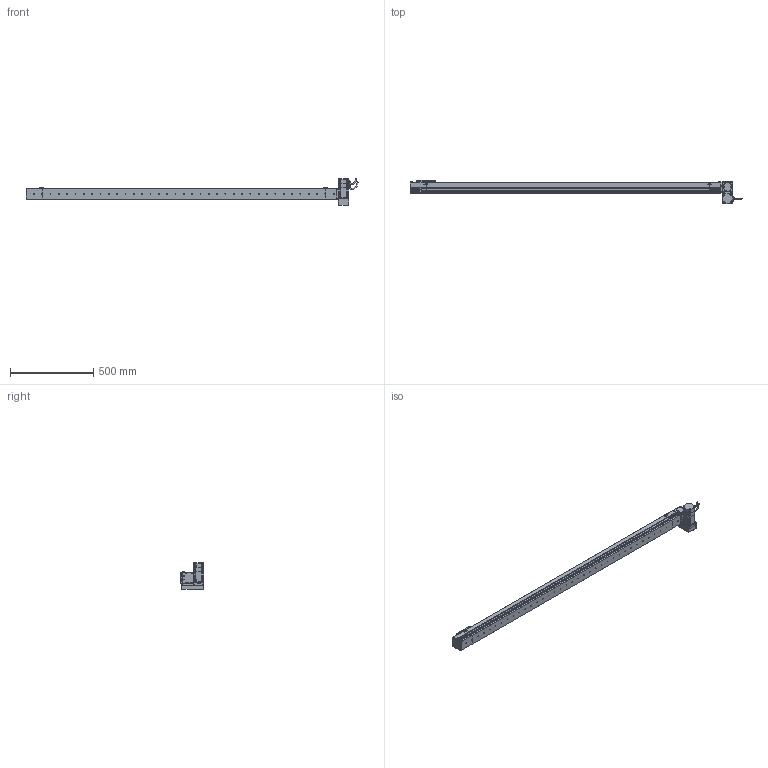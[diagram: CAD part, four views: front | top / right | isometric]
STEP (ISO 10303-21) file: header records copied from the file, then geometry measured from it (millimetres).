
FILE_DESCRIPTION (( 'STEP AP214' ), '1' );
FILE_NAME ('S07 CBN RU S1700.STEP', '2010-06-29T10:57:00', ( 'Conseil Régional Haute-Normandie' ), ( 'Conseil Régional Haute-Normandie' ), 'SwSTEP 2.0', 'SolidWorks 2010', '' );
FILE_SCHEMA (( 'AUTOMOTIVE_DESIGN' ));
Length unit declared in the file: millimetre
Products named in the file (31): Corp S07 S1700_Default; vis M5 L8_Default; support chariot_Default; vis M5 L15_Default; plaque de serrage Tail_Default; Plaque de bout Tail_Default; Couvercle Tail_Default; chariot_Default; Chariot S07_Default; Corp Tail_Default; Tail S07 Tail_Default; Couvercle S07 S1700_Default; Couvercle RU_Default; Corp RU_Default; Head RU_Default; S07 CBN RU S1700; Rondelle de Serrage RU_Default; plaque de serrage RU_Default; Plaque de bout RU_Default; 60BLDC90A-640_Default; Cache Support Moteur RU_Default; Support Moteur RU_Default; P3 90A_Default; P2 90A_Default; P1_Default; Conecteur 60BLDC_Default; Axe 60BLDC_Default; P4_Default; VisM3_Default; Conecteur2 60BLDC_Default
Assembly tree (71 placements, depth 4):
  S07 CBN RU S1700
    Chariot S07_Default
      support chariot_Default
      vis M5 L8_Default  x8
      chariot_Default
    Head RU_Default
      vis M5 L15_Default  x16
      60BLDC90A-640_Default
        P1_Default
        VisM3_Default  x12
        Axe 60BLDC_Default
        P3 90A_Default
        P2 90A_Default
        Conecteur2 60BLDC_Default
        Conecteur 60BLDC_Default
        P4_Default
      Plaque de bout RU_Default
      Rondelle de Serrage RU_Default  x3
      plaque de serrage RU_Default
      Couvercle RU_Default
      Support Moteur RU_Default
      Corp RU_Default
      Cache Support Moteur RU_Default
    Tail S07 Tail_Default
      plaque de serrage Tail_Default
      vis M5 L15_Default  x6
      Plaque de bout Tail_Default
      Couvercle Tail_Default
      Corp Tail_Default
    Corp S07 S1700_Default
      Couvercle S07 S1700_Default
      Corp S07 S1700_Default
Bounding box: 1993.2 x 142 x 162 mm (x, y, z)
Volume: 9357933 mm3; surface area: 1056953.4 mm2
Topology: 108 solids, 108 shells, 3952 faces, 9710 edges, 6252 vertices
Faces by surface type: plane 2270, bspline 756, cylinder 715, torus 112, cone 95, sphere 4
Entity records: 154953 total; most frequent: CARTESIAN_POINT 79851, ORIENTED_EDGE 14940, DIRECTION 11283, EDGE_CURVE 7470, VERTEX_POINT 4937, VECTOR 4813, LINE 4813, AXIS2_PLACEMENT_3D 3235
